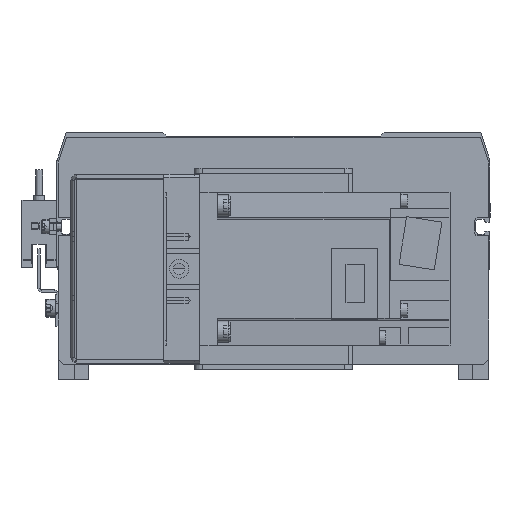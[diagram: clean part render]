
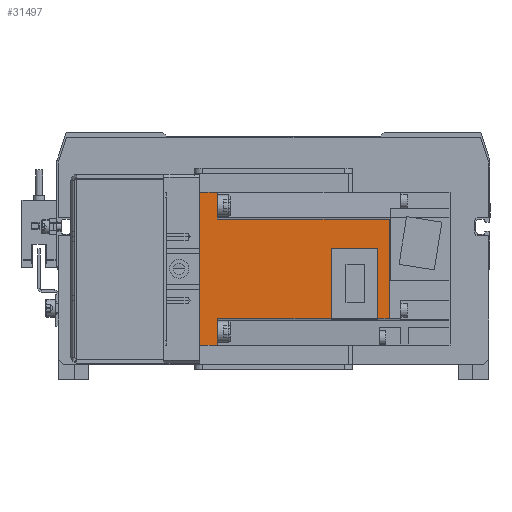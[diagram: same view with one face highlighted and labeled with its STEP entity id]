
A CAD part, front view. The second image highlights one B-rep face of the part: STEP entity #31497.
In plain terms, the highlighted planar face has unit normal (0, -1, 0) as drawn and (1, 0, 0) by its records, which use the part's own axes.
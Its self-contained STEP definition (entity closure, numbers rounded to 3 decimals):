
#286 = EDGE_CURVE ( 'NONE', #41199, #40104, #20889, .T. ) ;
#1222 = DIRECTION ( 'NONE',  ( 0., 1., 0. ) ) ;
#1335 = LINE ( 'NONE', #3103, #23647 ) ;
#1659 = EDGE_CURVE ( 'NONE', #8583, #33978, #19255, .T. ) ;
#1746 = CARTESIAN_POINT ( 'NONE',  ( 30., 51.7, -19.515 ) ) ;
#2792 = LINE ( 'NONE', #35477, #42770 ) ;
#3103 = CARTESIAN_POINT ( 'NONE',  ( 30., 74.5, 30. ) ) ;
#3268 = CARTESIAN_POINT ( 'NONE',  ( 30., 7., 30. ) ) ;
#3336 = VECTOR ( 'NONE', #24989, 1000. ) ;
#4028 = VECTOR ( 'NONE', #24195, 1000. ) ;
#4055 = CARTESIAN_POINT ( 'NONE',  ( 30., 0., 30. ) ) ;
#4179 = LINE ( 'NONE', #37798, #27548 ) ;
#4594 = PLANE ( 'NONE',  #11535 ) ;
#5354 = CARTESIAN_POINT ( 'NONE',  ( 30., 7., 30. ) ) ;
#5455 = EDGE_LOOP ( 'NONE', ( #26710, #30068, #36537, #18993, #31986, #16428, #12715, #40474, #39960, #9142, #36115, #37830 ) ) ;
#5703 = CARTESIAN_POINT ( 'NONE',  ( 30., 74.5, -30. ) ) ;
#6301 = VERTEX_POINT ( 'NONE', #7380 ) ;
#6565 = CARTESIAN_POINT ( 'NONE',  ( 30., 69.85, 30. ) ) ;
#6743 = DIRECTION ( 'NONE',  ( 0., 0., -1. ) ) ;
#7380 = CARTESIAN_POINT ( 'NONE',  ( 30., 69.85, 8. ) ) ;
#7910 = DIRECTION ( 'NONE',  ( 0., 0., 1. ) ) ;
#7949 = CARTESIAN_POINT ( 'NONE',  ( 30., 7., -30. ) ) ;
#8583 = VERTEX_POINT ( 'NONE', #5354 ) ;
#8929 = CARTESIAN_POINT ( 'NONE',  ( 30., 74.5, -19.515 ) ) ;
#9142 = ORIENTED_EDGE ( 'NONE', *, *, #40319, .F. ) ;
#9696 = EDGE_CURVE ( 'NONE', #28953, #41304, #33309, .T. ) ;
#9714 = EDGE_CURVE ( 'NONE', #33978, #23648, #4179, .T. ) ;
#11535 = AXIS2_PLACEMENT_3D ( 'NONE', #14702, #21284, #7910 ) ;
#11637 = EDGE_CURVE ( 'NONE', #15452, #6301, #36777, .T. ) ;
#12715 = ORIENTED_EDGE ( 'NONE', *, *, #25315, .T. ) ;
#12864 = EDGE_CURVE ( 'NONE', #6301, #20199, #16381, .T. ) ;
#12906 = CARTESIAN_POINT ( 'NONE',  ( 30., 51.7, 8. ) ) ;
#14702 = CARTESIAN_POINT ( 'NONE',  ( 30., 74.5, 30. ) ) ;
#15452 = VERTEX_POINT ( 'NONE', #20074 ) ;
#15796 = EDGE_CURVE ( 'NONE', #23648, #35079, #38861, .T. ) ;
#16381 = LINE ( 'NONE', #21804, #20085 ) ;
#16428 = ORIENTED_EDGE ( 'NONE', *, *, #286, .T. ) ;
#17350 = CARTESIAN_POINT ( 'NONE',  ( 30., 74.5, 19.515 ) ) ;
#17716 = EDGE_CURVE ( 'NONE', #41199, #8583, #1335, .T. ) ;
#18464 = DIRECTION ( 'NONE',  ( 0., 0., -1. ) ) ;
#18635 = LINE ( 'NONE', #8929, #43039 ) ;
#18993 = ORIENTED_EDGE ( 'NONE', *, *, #1659, .F. ) ;
#19255 = LINE ( 'NONE', #3268, #32298 ) ;
#19561 = CARTESIAN_POINT ( 'NONE',  ( 30., 7., 19.515 ) ) ;
#20074 = CARTESIAN_POINT ( 'NONE',  ( 30., 69.85, -19.515 ) ) ;
#20085 = VECTOR ( 'NONE', #24721, 1000. ) ;
#20199 = VERTEX_POINT ( 'NONE', #12906 ) ;
#20889 = LINE ( 'NONE', #28061, #38552 ) ;
#21229 = CARTESIAN_POINT ( 'NONE',  ( 30., 0., -30. ) ) ;
#21284 = DIRECTION ( 'NONE',  ( -1., 0., 0. ) ) ;
#21296 = CARTESIAN_POINT ( 'NONE',  ( 30., 7., -19.515 ) ) ;
#21804 = CARTESIAN_POINT ( 'NONE',  ( 30., 74.5, 8. ) ) ;
#22170 = EDGE_CURVE ( 'NONE', #32546, #28953, #34056, .T. ) ;
#22399 = DIRECTION ( 'NONE',  ( 0., 1., 0. ) ) ;
#23287 = VECTOR ( 'NONE', #36640, 1000. ) ;
#23647 = VECTOR ( 'NONE', #26736, 1000. ) ;
#23648 = VERTEX_POINT ( 'NONE', #17350 ) ;
#24195 = DIRECTION ( 'NONE',  ( 0., 0., -1. ) ) ;
#24721 = DIRECTION ( 'NONE',  ( 0., -1., 0. ) ) ;
#24989 = DIRECTION ( 'NONE',  ( 0., -1., 0. ) ) ;
#25315 = EDGE_CURVE ( 'NONE', #40104, #41304, #41034, .T. ) ;
#26710 = ORIENTED_EDGE ( 'NONE', *, *, #29879, .F. ) ;
#26736 = DIRECTION ( 'NONE',  ( 0., 1., 0. ) ) ;
#27289 = FACE_OUTER_BOUND ( 'NONE', #5455, .T. ) ;
#27548 = VECTOR ( 'NONE', #1222, 1000. ) ;
#27893 = CARTESIAN_POINT ( 'NONE',  ( 30., 74.5, -19.515 ) ) ;
#28061 = CARTESIAN_POINT ( 'NONE',  ( 30., 0., 0. ) ) ;
#28953 = VERTEX_POINT ( 'NONE', #21296 ) ;
#29879 = EDGE_CURVE ( 'NONE', #35079, #15452, #18635, .T. ) ;
#30068 = ORIENTED_EDGE ( 'NONE', *, *, #15796, .F. ) ;
#31135 = CARTESIAN_POINT ( 'NONE',  ( 30., 7., 30. ) ) ;
#31275 = DIRECTION ( 'NONE',  ( 0., 0., -1. ) ) ;
#31497 = ADVANCED_FACE ( 'NONE', ( #27289 ), #4594, .F. ) ;
#31986 = ORIENTED_EDGE ( 'NONE', *, *, #17716, .F. ) ;
#32200 = VECTOR ( 'NONE', #22399, 1000. ) ;
#32298 = VECTOR ( 'NONE', #6743, 1000. ) ;
#32546 = VERTEX_POINT ( 'NONE', #1746 ) ;
#33309 = LINE ( 'NONE', #31135, #33860 ) ;
#33860 = VECTOR ( 'NONE', #31275, 1000. ) ;
#33978 = VERTEX_POINT ( 'NONE', #19561 ) ;
#34056 = LINE ( 'NONE', #27893, #3336 ) ;
#34561 = CARTESIAN_POINT ( 'NONE',  ( 30., 74.5, -19.515 ) ) ;
#35079 = VERTEX_POINT ( 'NONE', #34561 ) ;
#35477 = CARTESIAN_POINT ( 'NONE',  ( 30., 51.7, 30. ) ) ;
#35995 = DIRECTION ( 'NONE',  ( 0., -1., 0. ) ) ;
#36115 = ORIENTED_EDGE ( 'NONE', *, *, #12864, .F. ) ;
#36537 = ORIENTED_EDGE ( 'NONE', *, *, #9714, .F. ) ;
#36640 = DIRECTION ( 'NONE',  ( 0., 0., 1. ) ) ;
#36777 = LINE ( 'NONE', #6565, #23287 ) ;
#37113 = CARTESIAN_POINT ( 'NONE',  ( 30., 74.5, 30. ) ) ;
#37798 = CARTESIAN_POINT ( 'NONE',  ( 30., 74.5, 19.515 ) ) ;
#37830 = ORIENTED_EDGE ( 'NONE', *, *, #11637, .F. ) ;
#38552 = VECTOR ( 'NONE', #18464, 1000. ) ;
#38790 = DIRECTION ( 'NONE',  ( 0., 0., -1. ) ) ;
#38861 = LINE ( 'NONE', #37113, #4028 ) ;
#39960 = ORIENTED_EDGE ( 'NONE', *, *, #22170, .F. ) ;
#40104 = VERTEX_POINT ( 'NONE', #21229 ) ;
#40319 = EDGE_CURVE ( 'NONE', #20199, #32546, #2792, .T. ) ;
#40474 = ORIENTED_EDGE ( 'NONE', *, *, #9696, .F. ) ;
#41034 = LINE ( 'NONE', #5703, #32200 ) ;
#41199 = VERTEX_POINT ( 'NONE', #4055 ) ;
#41304 = VERTEX_POINT ( 'NONE', #7949 ) ;
#42770 = VECTOR ( 'NONE', #38790, 1000. ) ;
#43039 = VECTOR ( 'NONE', #35995, 1000. ) ;
